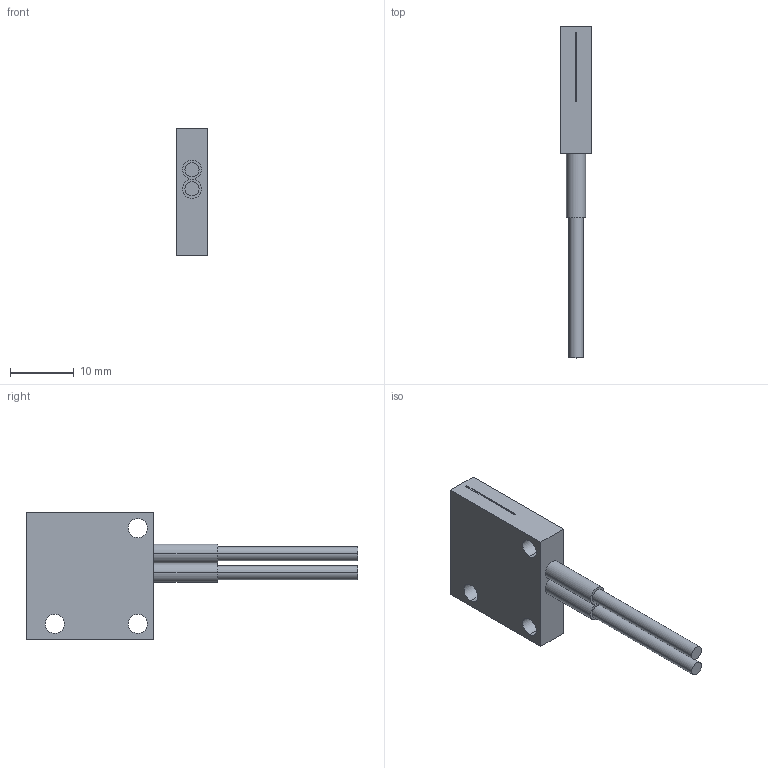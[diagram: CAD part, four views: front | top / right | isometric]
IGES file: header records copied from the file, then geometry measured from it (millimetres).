
Start section: SolidWorks IGES FILE using analytic representation for surfaces
Global section: file name: C:\Documents and Settings\yk0651\デスクトップ\3D_catalog_050904\0_IGES\FD-AFM2E.IGS; native system: SolidWorks 2004 by SolidWorks Corporation; preprocessor: Version 5.3; author: yk0651; date: 050904.181651; units: millimetre
Bounding box: 5 x 52 x 20 mm (x, y, z)
Volume: 2202.3 mm3; surface area: 1793.8 mm2
Topology: 1 solids, 1 shells, 29 faces, 66 edges, 44 vertices
Faces by surface type: plane 15, revolution 14
